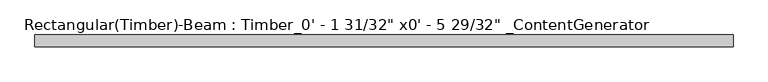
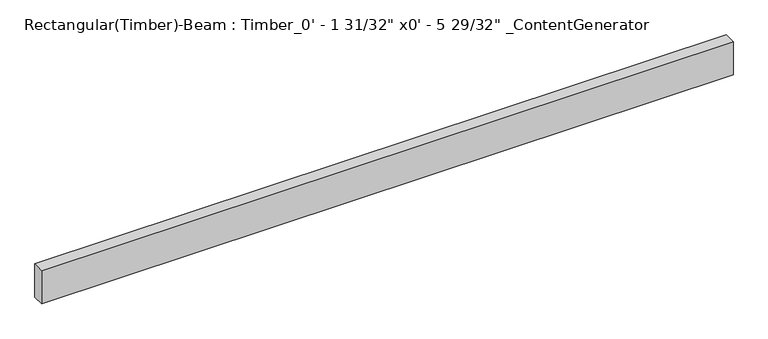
"""IFC4 building model written with IfcOpenShell, lengths in millimetres: beam geometry."""

from ifc_helpers import new_model, si_unit, frame, origin, place, context, project, spatial, polyline, outline, extrude, source, transform, mapped, element, save


def beam_16850151(model_context):
    return source(origin(), model_context, "Body", "SweptSolid", [
        extrude(outline(polyline([(1487.5816025, 25.4), (1487.5816025, -25.4), (-1512.9816025, -25.4), (-1512.9816025, 25.4), (1487.5816025, 25.4)])), frame((0.0, 0.0, -76.2), z_axis=(0.0, 0.0, 1.0), x_axis=(1.0, 0.0, 0.0)), (0.0, 0.0, 1.0), 152.4),
    ])


if __name__ == "__main__":
    model = new_model("IFC4")
    model_context = context("Model", 3, world=origin())
    ifc_project = project(units=[si_unit("LENGTHUNIT", "METRE", prefix="MILLI")], contexts=[model_context])
    site = spatial("IfcSite", under=ifc_project)
    building = spatial("IfcBuilding", under=site)
    placement = place(None, origin())
    beam_shape = beam_16850151(model_context)
    element("IfcBeam", 1, ObjectType="Rectangular(Timber)-Beam : Timber_0' - 1 31/32\" x0' - 5 29/32\" _ContentGenerator", at=placement, inside=building, context=model_context, shape_type="MappedRepresentation", body=[
        mapped(beam_shape, transform((0.0, 0.0, 0.0), x_axis=(1.0, 0.0, 0.0), y_axis=(0.0, 1.0, 0.0), z_axis=(0.0, 0.0, 1.0))),
    ])
    save(model, "model.ifc")
